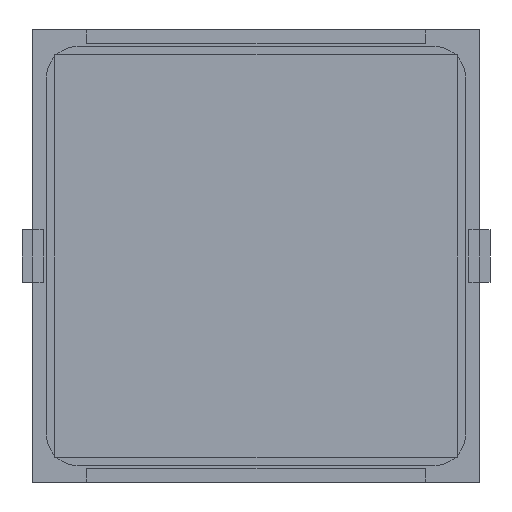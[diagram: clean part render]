
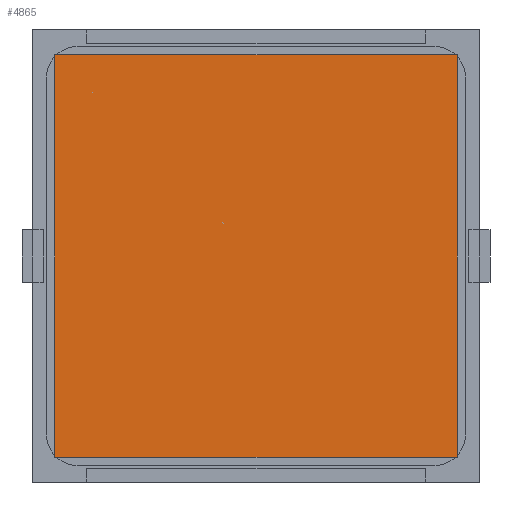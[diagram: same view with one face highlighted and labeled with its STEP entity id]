
A CAD part, front view. The second image highlights one B-rep face of the part: STEP entity #4865.
In plain terms, the highlighted planar face has unit normal (0, -1, 0).
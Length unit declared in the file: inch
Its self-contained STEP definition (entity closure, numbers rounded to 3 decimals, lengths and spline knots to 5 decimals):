
#466 = DIRECTION ( 'NONE',  ( -1., 0., 0. ) ) ;
#483 = CARTESIAN_POINT ( 'NONE',  ( -0.74803, -0.005, 0.74803 ) ) ;
#1970 = VERTEX_POINT ( 'NONE', #7532 ) ;
#2122 = LINE ( 'NONE', #9395, #16438 ) ;
#2203 = ORIENTED_EDGE ( 'NONE', *, *, #10922, .T. ) ;
#2850 = DIRECTION ( 'NONE',  ( 0., 0., -1. ) ) ;
#3433 = CARTESIAN_POINT ( 'NONE',  ( 0.74803, -0.005, -0.74803 ) ) ;
#3847 = ORIENTED_EDGE ( 'NONE', *, *, #6771, .T. ) ;
#4468 = CARTESIAN_POINT ( 'NONE',  ( -0.74803, -0.005, -0.74803 ) ) ;
#4865 = ADVANCED_FACE ( 'NONE', ( #18803 ), #10133, .T. ) ;
#5715 = LINE ( 'NONE', #17213, #9332 ) ;
#6456 = CARTESIAN_POINT ( 'NONE',  ( 0.74803, -0.005, -0.74803 ) ) ;
#6606 = EDGE_LOOP ( 'NONE', ( #3847, #10281, #9219, #2203 ) ) ;
#6771 = EDGE_CURVE ( 'NONE', #10257, #15541, #15323, .T. ) ;
#6909 = VECTOR ( 'NONE', #2850, 39.37008 ) ;
#7532 = CARTESIAN_POINT ( 'NONE',  ( -0.74803, -0.005, -0.74803 ) ) ;
#7935 = EDGE_CURVE ( 'NONE', #15541, #13960, #2122, .T. ) ;
#8894 = AXIS2_PLACEMENT_3D ( 'NONE', #18984, #11798, #14834 ) ;
#9219 = ORIENTED_EDGE ( 'NONE', *, *, #14883, .T. ) ;
#9332 = VECTOR ( 'NONE', #11289, 39.37008 ) ;
#9395 = CARTESIAN_POINT ( 'NONE',  ( 0.74803, -0.005, 0.74803 ) ) ;
#10133 = PLANE ( 'NONE',  #8894 ) ;
#10257 = VERTEX_POINT ( 'NONE', #3433 ) ;
#10281 = ORIENTED_EDGE ( 'NONE', *, *, #7935, .T. ) ;
#10922 = EDGE_CURVE ( 'NONE', #1970, #10257, #5715, .T. ) ;
#11255 = DIRECTION ( 'NONE',  ( 0., 0., 1. ) ) ;
#11289 = DIRECTION ( 'NONE',  ( 1., 0., 0. ) ) ;
#11685 = LINE ( 'NONE', #4468, #6909 ) ;
#11798 = DIRECTION ( 'NONE',  ( 0., -1., 0. ) ) ;
#12112 = VECTOR ( 'NONE', #11255, 39.37008 ) ;
#13960 = VERTEX_POINT ( 'NONE', #483 ) ;
#14418 = CARTESIAN_POINT ( 'NONE',  ( 0.74803, -0.005, 0.74803 ) ) ;
#14834 = DIRECTION ( 'NONE',  ( 0., 0., 1. ) ) ;
#14883 = EDGE_CURVE ( 'NONE', #13960, #1970, #11685, .T. ) ;
#15323 = LINE ( 'NONE', #6456, #12112 ) ;
#15541 = VERTEX_POINT ( 'NONE', #14418 ) ;
#16438 = VECTOR ( 'NONE', #466, 39.37008 ) ;
#17213 = CARTESIAN_POINT ( 'NONE',  ( 0.74803, -0.005, -0.74803 ) ) ;
#18803 = FACE_OUTER_BOUND ( 'NONE', #6606, .T. ) ;
#18984 = CARTESIAN_POINT ( 'NONE',  ( 0.74803, -0.005, 0.74803 ) ) ;
